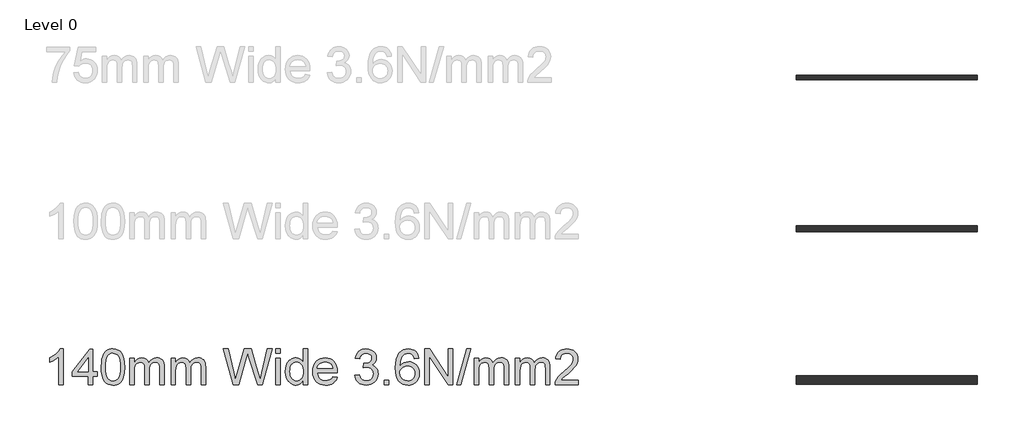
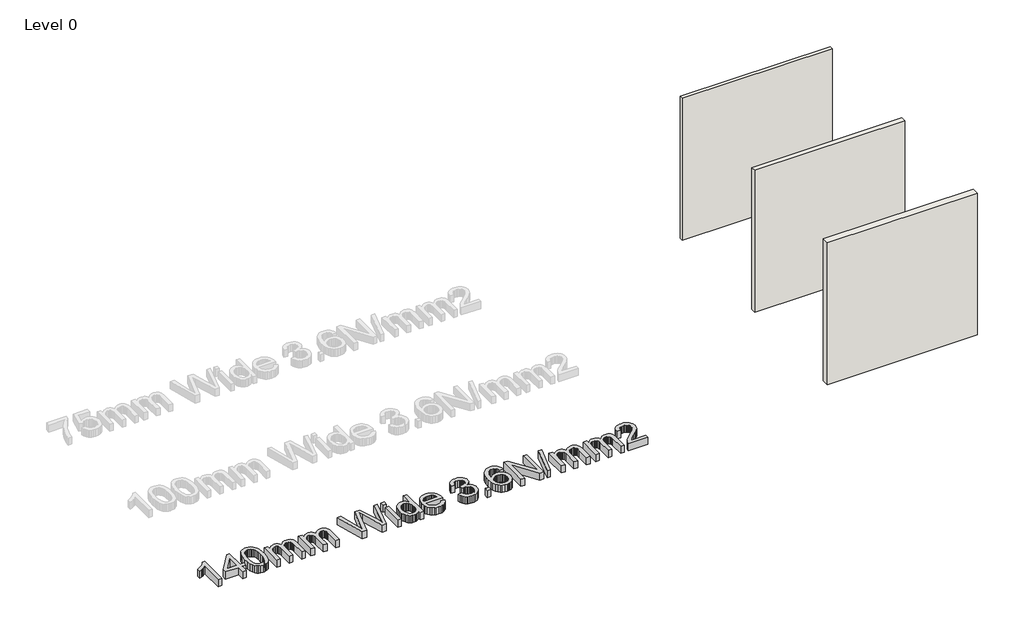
# One storey, part 1 of 4: 3 walls, 1 proxy.
"""IFC4 building model written with IfcOpenShell, lengths in millimetres."""

from ifc_helpers import new_model, si_unit, origin, origin_with_axes, place, context, project, spatial, polyline, outline, extrude, element, save

model = new_model("IFC4")

# Units and contexts
model_context = context("Model", 3, world=origin())
ifc_project = project(units=[si_unit("LENGTHUNIT", "METRE", prefix="MILLI")], contexts=[model_context])

# Site, building, storey
site = spatial("IfcSite", under=ifc_project)
building = spatial("IfcBuilding", under=site)
storey = spatial("IfcBuildingStorey", under=building, Name="Level 0", Elevation=0.0)

# Proxy
placement = place(None, origin())
element("IfcBuildingElementProxy", 1, Name="600mm Arial", ObjectType="600mm Arial", at=placement, inside=storey, context=model_context, shape_type="SweptSolid", body=[
    extrude(outline(polyline([(-37097.3715111, 14410.5578406), (-37171.2176649, 14410.5578406), (-37171.2176649, 14870.942456), (-37202.0469919, 14846.0085618), (-37241.169588, 14821.1107253), (-37282.2392995, 14799.349908), (-37318.9099726, 14783.8270714), (-37318.9099726, 14853.6347637), (-37260.9111745, 14885.1852445), (-37210.6647803, 14922.7213022), (-37171.0554053, 14962.6371676), (-37144.9676649, 15001.3270714), (-37097.3715111, 15001.3270714), (-37097.3715111, 14410.5578406)])), origin_with_axes(), (0.0, 0.0, 1.0), 150.0),
    extrude(outline(polyline([(-36681.9868957, 14410.5578406), (-36681.9868957, 14549.0193791), (-36949.6792034, 14549.0193791), (-36949.6792034, 14622.865533), (-36663.5253572, 14992.0963022), (-36608.1407419, 14992.0963022), (-36608.1407419, 14622.865533), (-36534.294588, 14622.865533), (-36534.294588, 14549.0193791), (-36608.1407419, 14549.0193791), (-36608.1407419, 14410.5578406), (-36681.9868957, 14410.5578406)]), holes=[polyline([(-36681.9868957, 14622.865533), (-36681.9868957, 14851.0386099), (-36858.8138188, 14622.865533), (-36681.9868957, 14622.865533)])]), origin_with_axes(), (0.0, 0.0, 1.0), 150.0),
    extrude(outline(polyline([(-36469.6792034, 14701.1828406), (-36464.2525207, 14795.7441387), (-36457.4691673, 14835.8447998), (-36447.9724726, 14871.1588022), (-36435.8030015, 14901.9746075), (-36421.0013188, 14928.5806772), (-36403.5674245, 14950.9770113), (-36383.5013188, 14969.1636099), (-36360.7353933, 14983.2351243), (-36335.2020399, 14993.286206), (-36306.9012587, 14999.3168551), (-36275.8330495, 15001.3270714), (-36230.3282419, 14996.567456), (-36189.5830495, 14982.2886099), (-36155.5085303, 14959.0494272), (-36130.0157419, 14927.4088022), (-36110.7609342, 14887.6371676), (-36095.4003572, 14840.004956), (-36085.3402611, 14779.5181772), (-36081.9868957, 14701.1828406), (-36087.3594919, 14607.162408), (-36094.075237, 14567.1969632), (-36103.4772803, 14531.928033), (-36115.5521, 14501.098706), (-36130.2861745, 14474.4520714), (-36147.6795039, 14451.9881291), (-36167.732088, 14433.7068791), (-36190.5250568, 14419.5407132), (-36216.1395399, 14409.4220233), (-36244.5755375, 14403.3508094), (-36275.8330495, 14401.3270714), (-36316.5061265, 14404.8426964), (-36352.5638188, 14415.3895714), (-36384.0061265, 14432.9676964), (-36410.8330495, 14457.5770714), (-36436.5782419, 14502.0632493), (-36454.9676649, 14557.4929368), (-36466.0013188, 14623.8661339), (-36469.6792034, 14701.1828406)]), holes=[polyline([(-36395.8330495, 14701.3270714), (-36393.669588, 14637.1308575), (-36387.1792034, 14585.1672156), (-36376.3618957, 14545.4361459), (-36361.2176649, 14517.9376483), (-36342.9003572, 14499.2282132), (-36322.5638188, 14485.864331), (-36300.2080495, 14477.8460017), (-36275.8330495, 14475.1732253), (-36251.4580495, 14477.8550161), (-36229.1022803, 14485.9003887), (-36208.7657419, 14499.309343), (-36190.4484342, 14518.0818791), (-36175.3042034, 14545.6254488), (-36164.4868957, 14585.3475041), (-36157.9965111, 14637.248045), (-36155.8330495, 14701.3270714), (-36157.9243957, 14763.8240666), (-36164.1984342, 14814.8727445), (-36174.6551649, 14854.4731051), (-36189.294588, 14882.6251483), (-36207.3054053, 14902.2495474), (-36227.8763188, 14916.2669753), (-36251.0073284, 14924.677432), (-36276.6984342, 14927.4809176), (-36300.9472322, 14925.0109656), (-36322.9243957, 14917.6011099), (-36342.6299245, 14905.2513503), (-36360.0638188, 14887.9616868), (-36375.7128572, 14857.3126483), (-36386.8907419, 14815.990533), (-36393.5974726, 14763.9953406), (-36395.8330495, 14701.3270714)])]), origin_with_axes(), (0.0, 0.0, 1.0), 150.0),
    extrude(outline(polyline([(-35998.9099726, 14410.5578406), (-35998.9099726, 14844.4039945), (-35925.0638188, 14844.4039945), (-35925.0638188, 14773.0097637), (-35902.8522803, 14805.8042349), (-35874.294588, 14831.4953406), (-35840.3642995, 14848.099908), (-35802.0349726, 14853.6347637), (-35760.9652611, 14847.9917349), (-35743.4862947, 14840.9379488), (-35728.044588, 14831.0626483), (-35703.4532419, 14803.9652926), (-35687.3715111, 14767.817456), (-35660.4544438, 14805.3625281), (-35629.7513188, 14832.1804368), (-35595.2621361, 14848.271182), (-35556.9868957, 14853.6347637), (-35527.4240952, 14851.403694), (-35501.4760784, 14844.7104849), (-35479.1428452, 14833.5551363), (-35460.4243957, 14817.9376483), (-35445.6272202, 14797.6777325), (-35435.0578092, 14772.5951003), (-35428.7161625, 14742.6897517), (-35426.6022803, 14707.9616868), (-35426.6022803, 14410.5578406), (-35500.4484342, 14410.5578406), (-35500.4484342, 14676.2309176), (-35502.1611745, 14713.0638503), (-35507.2993957, 14737.8895714), (-35516.9267995, 14754.8907733), (-35532.107088, 14768.2501483), (-35551.6323284, 14776.9039945), (-35574.294588, 14779.7886099), (-35595.2215712, 14777.9406531), (-35614.3005976, 14772.396783), (-35631.5316673, 14763.1569993), (-35646.9147803, 14750.2213022), (-35659.5665231, 14733.2110858), (-35668.6034822, 14711.7477445), (-35674.0256577, 14685.8312781), (-35675.8330495, 14655.4616868), (-35675.8330495, 14410.5578406), (-35749.6792034, 14410.5578406), (-35749.6792034, 14684.4520714), (-35753.9520399, 14726.2068791), (-35766.7705495, 14755.990533), (-35776.6819077, 14766.4021916), (-35789.3246361, 14773.8390906), (-35804.6987346, 14778.3012301), (-35822.8042034, 14779.7886099), (-35851.2537226, 14775.8222637), (-35877.4676649, 14763.9232253), (-35899.1022803, 14744.379956), (-35913.8138188, 14717.4809176), (-35922.2513188, 14680.161206), (-35925.0638188, 14629.3559176), (-35925.0638188, 14410.5578406), (-35998.9099726, 14410.5578406)])), origin_with_axes(), (0.0, 0.0, 1.0), 150.0),
    extrude(outline(polyline([(-35315.8330495, 14410.5578406), (-35315.8330495, 14844.4039945), (-35241.9868957, 14844.4039945), (-35241.9868957, 14773.0097637), (-35219.7753572, 14805.8042349), (-35191.2176649, 14831.4953406), (-35157.2873765, 14848.099908), (-35118.9580495, 14853.6347637), (-35077.888338, 14847.9917349), (-35060.4093717, 14840.9379488), (-35044.9676649, 14831.0626483), (-35020.3763188, 14803.9652926), (-35004.294588, 14767.817456), (-34977.3775207, 14805.3625281), (-34946.6743957, 14832.1804368), (-34912.185213, 14848.271182), (-34873.9099726, 14853.6347637), (-34844.3471721, 14851.403694), (-34818.3991553, 14844.7104849), (-34796.0659221, 14833.5551363), (-34777.3474726, 14817.9376483), (-34762.5502971, 14797.6777325), (-34751.9808861, 14772.5951003), (-34745.6392395, 14742.6897517), (-34743.5253572, 14707.9616868), (-34743.5253572, 14410.5578406), (-34817.3715111, 14410.5578406), (-34817.3715111, 14676.2309176), (-34819.0842515, 14713.0638503), (-34824.2224726, 14737.8895714), (-34833.8498765, 14754.8907733), (-34849.0301649, 14768.2501483), (-34868.5554053, 14776.9039945), (-34891.2176649, 14779.7886099), (-34912.1446481, 14777.9406531), (-34931.2236745, 14772.396783), (-34948.4547443, 14763.1569993), (-34963.8378572, 14750.2213022), (-34976.4896, 14733.2110858), (-34985.5265592, 14711.7477445), (-34990.9487346, 14685.8312781), (-34992.7561265, 14655.4616868), (-34992.7561265, 14410.5578406), (-35066.6022803, 14410.5578406), (-35066.6022803, 14684.4520714), (-35070.8751169, 14726.2068791), (-35083.6936265, 14755.990533), (-35093.6049846, 14766.4021916), (-35106.247713, 14773.8390906), (-35121.6218116, 14778.3012301), (-35139.7272803, 14779.7886099), (-35168.1767995, 14775.8222637), (-35194.3907419, 14763.9232253), (-35216.0253572, 14744.379956), (-35230.7368957, 14717.4809176), (-35239.1743957, 14680.161206), (-35241.9868957, 14629.3559176), (-35241.9868957, 14410.5578406), (-35315.8330495, 14410.5578406)])), origin_with_axes(), (0.0, 0.0, 1.0), 150.0),
    extrude(outline(polyline([(-34287.0349726, 14410.5578406), (-34448.1407419, 15001.3270714), (-34371.9868957, 15001.3270714), (-34278.5253572, 14613.0578406), (-34249.6792034, 14493.2020714), (-34218.8138188, 14599.2116868), (-34101.6984342, 15001.3270714), (-33991.9388188, 15001.3270714), (-33906.8426649, 14709.8366868), (-33870.388338, 14601.6636099), (-33843.5253572, 14493.2020714), (-33815.544588, 14609.5963022), (-33721.2176649, 15001.3270714), (-33645.0638188, 15001.3270714), (-33806.3138188, 14410.5578406), (-33885.2080495, 14410.5578406), (-34026.8426649, 14866.3270714), (-34046.6022803, 14929.9328406), (-34068.8138188, 14853.3463022), (-34197.9003572, 14410.5578406), (-34287.0349726, 14410.5578406)])), origin_with_axes(), (0.0, 0.0, 1.0), 150.0),
    extrude(outline(polyline([(-33580.4484342, 14410.5578406), (-33580.4484342, 14844.4039945), (-33506.6022803, 14844.4039945), (-33506.6022803, 14410.5578406), (-33580.4484342, 14410.5578406)])), origin_with_axes(), (0.0, 0.0, 1.0), 150.0),
    extrude(outline(polyline([(-33580.4484342, 14927.4809176), (-33580.4484342, 15001.3270714), (-33506.6022803, 15001.3270714), (-33506.6022803, 14927.4809176), (-33580.4484342, 14927.4809176)])), origin_with_axes(), (0.0, 0.0, 1.0), 150.0),
    extrude(outline(polyline([(-33128.1407419, 14410.5578406), (-33128.1407419, 14480.2213022), (-33150.2350928, 14445.7050762), (-33176.9989149, 14421.0506291), (-33208.4322082, 14406.2579608), (-33244.5349726, 14401.3270714), (-33268.9099726, 14403.1119272), (-33292.2753572, 14408.4664945), (-33314.6311265, 14417.3907733), (-33335.9772803, 14429.8847637), (-33355.6467515, 14445.5743671), (-33372.9724726, 14464.0854849), (-33387.9544438, 14485.4181171), (-33400.5926649, 14509.5722637), (-33410.6257178, 14536.0881892), (-33417.7921842, 14564.506158), (-33423.5253572, 14627.0482253), (-33418.2429053, 14688.8150522), (-33402.3955495, 14744.5963022), (-33390.5145399, 14769.4490666), (-33376.0013188, 14791.2188983), (-33358.8558861, 14809.9057974), (-33339.0782419, 14825.5097637), (-33317.3670039, 14837.8144512), (-33294.4207899, 14846.6035137), (-33270.2396, 14851.8769512), (-33244.8234342, 14853.6347637), (-33208.6936265, 14848.6047156), (-33176.7465111, 14833.5145714), (-33149.6671842, 14810.3835618), (-33128.1407419, 14781.2309176), (-33128.1407419, 15001.3270714), (-33054.294588, 15001.3270714), (-33054.294588, 14410.5578406), (-33128.1407419, 14410.5578406)]), holes=[polyline([(-33349.6792034, 14627.3366868), (-33347.5968717, 14591.5268911), (-33341.3498765, 14560.5398118), (-33330.9382178, 14534.3754488), (-33316.3618957, 14513.0338022), (-33298.9550447, 14496.4697998), (-33280.0517995, 14484.6383695), (-33259.6521601, 14477.5395113), (-33237.7561265, 14475.1732253), (-33215.756427, 14477.4313382), (-33195.4784822, 14484.2056772), (-33176.9222923, 14495.4962421), (-33160.0878572, 14511.303033), (-33146.1109943, 14531.7522517), (-33136.1275207, 14556.9701003), (-33130.1374366, 14586.9565786), (-33128.1407419, 14621.7116868), (-33130.1734943, 14659.8156531), (-33136.2717515, 14692.4929368), (-33146.4355135, 14719.7435378), (-33160.6647803, 14741.567456), (-33177.8688068, 14758.2892108), (-33196.9568476, 14770.2333214), (-33217.9289029, 14777.3997878), (-33240.7849726, 14779.7886099), (-33263.1136986, 14777.4944392), (-33283.513338, 14770.6119272), (-33301.9838909, 14759.1410738), (-33318.5253572, 14743.0818791), (-33332.1551649, 14722.0827805), (-33341.8907419, 14695.7922156), (-33347.732088, 14664.2101844), (-33349.6792034, 14627.3366868)])]), origin_with_axes(), (0.0, 0.0, 1.0), 150.0),
    extrude(outline(polyline([(-32639.7753572, 14539.7886099), (-32567.3715111, 14530.5578406), (-32578.4727731, 14501.5584416), (-32593.4592515, 14476.0025522), (-32612.3309462, 14453.8901724), (-32635.0878572, 14435.2213022), (-32661.4956096, 14420.3925762), (-32691.3198284, 14409.8006291), (-32724.5605135, 14403.4454608), (-32761.2176649, 14401.3270714), (-32807.0379774, 14404.98242), (-32847.8642995, 14415.9484656), (-32883.6966313, 14434.2252084), (-32914.5349726, 14459.8126483), (-32939.3336505, 14491.9986459), (-32957.0469919, 14530.0710618), (-32967.6749967, 14574.0298959), (-32971.2176649, 14623.8751483), (-32967.638939, 14675.4106051), (-32956.9027611, 14720.834283), (-32939.0091313, 14760.146182), (-32913.9580495, 14793.3463022), (-32883.200838, 14819.7225041), (-32848.1888188, 14838.5626483), (-32808.9219919, 14849.8667349), (-32765.4003572, 14853.6347637), (-32723.2804654, 14849.8757493), (-32685.1900207, 14838.598706), (-32651.1290231, 14819.8036339), (-32621.0974726, 14793.490533), (-32596.5827491, 14760.3625281), (-32579.0722322, 14721.1227445), (-32568.5659221, 14675.771182), (-32565.0638188, 14624.3078406), (-32565.4965111, 14604.4039945), (-32897.3715111, 14604.4039945), (-32893.0941673, 14574.9358455), (-32884.5890592, 14549.1275522), (-32871.8561866, 14526.9791147), (-32854.8955495, 14508.490533), (-32834.6446481, 14493.9142108), (-32812.0409822, 14483.5025522), (-32787.084552, 14477.255557), (-32759.7753572, 14475.1732253), (-32720.4724726, 14479.0313983), (-32687.3715111, 14490.6059176), (-32660.4724726, 14510.6179368), (-32639.7753572, 14539.7886099)]), holes=[polyline([(-32897.3715111, 14678.2501483), (-32638.9099726, 14678.2501483), (-32648.8979534, 14717.2645714), (-32657.4886986, 14732.6071195), (-32668.4772803, 14745.1732253), (-32688.6155015, 14760.317456), (-32711.5301649, 14771.1347637), (-32737.2212707, 14777.6251483), (-32765.6888188, 14779.7886099), (-32791.6548645, 14778.0623479), (-32815.466463, 14772.8835618), (-32837.1236145, 14764.2522517), (-32856.6263188, 14752.1684176), (-32872.9920039, 14737.1909536), (-32885.2380976, 14719.8787541), (-32893.3646, 14700.231819), (-32897.3715111, 14678.2501483)])]), origin_with_axes(), (0.0, 0.0, 1.0), 150.0),
    extrude(outline(polyline([(-32278.9099726, 14567.4809176), (-32205.0638188, 14576.7116868), (-32188.5313669, 14530.3054368), (-32177.3850327, 14512.7543551), (-32164.3186265, 14498.9713022), (-32149.0346721, 14488.5596435), (-32131.2356938, 14481.1227445), (-32110.9216914, 14476.6606051), (-32088.0926649, 14475.1732253), (-32061.3378572, 14477.2194993), (-32037.4676649, 14483.3583214), (-32016.482088, 14493.5896916), (-31998.3811265, 14507.9136099), (-31983.8048044, 14525.2573599), (-31973.3931457, 14544.5482253), (-31967.1461505, 14565.786206), (-31965.0638188, 14588.9713022), (-31967.1281217, 14611.0521315), (-31973.3210303, 14631.1407733), (-31983.6425447, 14649.2372277), (-31998.0926649, 14665.3414945), (-32015.7248765, 14678.5611459), (-32035.5926649, 14688.0037541), (-32057.6960303, 14693.669319), (-32082.0349726, 14695.5578406), (-32105.3642995, 14693.5386099), (-32133.8138188, 14687.4809176), (-32125.5926649, 14761.3270714), (-32113.7657419, 14760.4616868), (-32069.5229534, 14765.7621676), (-32029.9676649, 14781.6636099), (-32013.6876169, 14793.6888503), (-32002.0590111, 14808.5626483), (-31995.0818476, 14826.2850041), (-31992.7561265, 14846.8559176), (-31994.4418236, 14863.5551363), (-31999.4989149, 14878.7489464), (-32007.9274005, 14892.4373479), (-32019.7272803, 14904.6203406), (-32034.1864149, 14914.621843), (-32050.5926649, 14921.7657733), (-32089.2465111, 14927.4809176), (-32127.9724726, 14921.7116868), (-32144.685213, 14914.5001483), (-32159.6311265, 14904.4039945), (-32172.4406217, 14891.4232253), (-32182.7441072, 14875.5578406), (-32190.5415832, 14856.8078406), (-32195.8330495, 14835.1732253), (-32269.6792034, 14844.4039945), (-32260.9261986, 14879.6594031), (-32247.9364149, 14910.7140906), (-32230.7098524, 14937.568057), (-32209.2465111, 14960.2213022), (-32184.2224726, 14978.2050762), (-32156.3138188, 14991.0506291), (-32125.5205495, 14998.7579608), (-32091.8426649, 15001.3270714), (-32045.4183861, 14996.2609656), (-32002.7801649, 14981.0626483), (-31966.8306457, 14957.084283), (-31940.4724726, 14925.678033), (-31924.3005976, 14889.4941387), (-31918.9099726, 14851.1828406), (-31924.0301649, 14815.4857253), (-31939.3907419, 14783.1059176), (-31964.7753572, 14755.521783), (-31999.9676649, 14734.2116868), (-31975.3582899, 14726.5133695), (-31953.7417034, 14715.5338022), (-31935.1179053, 14701.2729849), (-31919.4868957, 14683.7309176), (-31907.1191072, 14663.3402926), (-31898.2849726, 14640.5338022), (-31892.9844919, 14615.3114464), (-31891.2176649, 14587.6732253), (-31894.7513188, 14550.209283), (-31905.3522803, 14515.7020714), (-31923.0205495, 14484.1515906), (-31947.7561265, 14455.5578406), (-31977.8913428, 14431.8318791), (-32011.7585303, 14414.8847637), (-32049.357689, 14404.7164945), (-32090.6888188, 14401.3270714), (-32128.044588, 14404.2207012), (-32162.0830495, 14412.9015906), (-32192.8042034, 14427.3697397), (-32220.2080495, 14447.6251483), (-32243.185814, 14472.4779128), (-32260.6287226, 14500.7381291), (-32272.5367755, 14532.4057974), (-32278.9099726, 14567.4809176)])), origin_with_axes(), (0.0, 0.0, 1.0), 150.0),
    extrude(outline(polyline([(-31789.6792034, 14410.5578406), (-31789.6792034, 14484.4039945), (-31715.8330495, 14484.4039945), (-31715.8330495, 14410.5578406), (-31789.6792034, 14410.5578406)])), origin_with_axes(), (0.0, 0.0, 1.0), 150.0),
    extrude(outline(polyline([(-31217.3715111, 14844.4039945), (-31291.2176649, 14835.1732253), (-31303.1167034, 14871.771783), (-31319.1984342, 14896.7597637), (-31335.0728332, 14910.2002685), (-31352.6960303, 14919.8006291), (-31372.0680255, 14925.5608455), (-31393.1888188, 14927.4809176), (-31427.5157419, 14923.0097637), (-31459.8234342, 14909.5963022), (-31487.5698284, 14881.3451003), (-31510.232088, 14842.4568791), (-31519.0887587, 14817.653694), (-31525.5385784, 14787.4508695), (-31531.2176649, 14710.8463022), (-31501.5962707, 14745.4076003), (-31466.0974726, 14769.7645714), (-31426.7044438, 14784.2056772), (-31385.4003572, 14789.0193791), (-31349.919588, 14785.7291147), (-31317.1792034, 14775.8583214), (-31287.1792034, 14759.4069993), (-31259.919588, 14736.3751483), (-31237.2663428, 14708.1329608), (-31221.0854534, 14676.0506291), (-31211.3769197, 14640.1281531), (-31208.1407419, 14600.365533), (-31214.2344919, 14547.4869272), (-31221.8516794, 14522.4944392), (-31232.5157419, 14498.4664945), (-31245.8480736, 14476.3000281), (-31261.4700688, 14456.8919753), (-31279.3817274, 14440.2423358), (-31299.5830495, 14426.3511099), (-31321.6413428, 14415.403093), (-31345.1239149, 14407.583081), (-31370.0307659, 14402.8910738), (-31396.3618957, 14401.3270714), (-31440.3838308, 14405.473706), (-31480.1419438, 14417.9136099), (-31515.6362346, 14438.646783), (-31546.8667034, 14467.6732253), (-31572.3279414, 14506.2188983), (-31590.5145399, 14555.5097637), (-31601.4264991, 14615.5458214), (-31605.0638188, 14686.3270714), (-31601.0253572, 14765.6810378), (-31588.9099726, 14833.4063983), (-31568.7176649, 14889.5031531), (-31555.5926649, 14913.1908034), (-31540.4484342, 14933.9713022), (-31509.8084101, 14963.4394512), (-31474.2825688, 14984.4881291), (-31433.8709101, 14997.1173358), (-31388.5734342, 15001.3270714), (-31354.5620159, 14998.7219031), (-31323.7777611, 14990.9063983), (-31296.2206697, 14977.880557), (-31271.8907419, 14959.6443791), (-31251.4460303, 14936.8108455), (-31235.544588, 14909.9929368), (-31224.1864149, 14879.1906531), (-31217.3715111, 14844.4039945)]), holes=[polyline([(-31531.2176649, 14601.5193791), (-31526.9448284, 14568.7970233), (-31514.1263188, 14537.553033), (-31494.2224726, 14510.6900522), (-31468.6936265, 14491.1107253), (-31437.8823284, 14479.1576003), (-31402.1311265, 14475.1732253), (-31376.4625568, 14477.2375281), (-31353.3991553, 14483.4304368), (-31332.9409221, 14493.7519512), (-31315.0878572, 14508.2020714), (-31300.6061866, 14526.1948599), (-31290.2621361, 14547.1443791), (-31284.0557058, 14571.0506291), (-31281.9868957, 14597.9136099), (-31284.0286625, 14623.7264104), (-31290.153963, 14646.645581), (-31300.3627971, 14666.6711219), (-31314.6551649, 14683.803033), (-31332.5623164, 14697.5274921), (-31353.6155015, 14707.3306772), (-31377.8147202, 14713.2125882), (-31405.1599726, 14715.1732253), (-31430.4859943, 14713.2125882), (-31453.8198284, 14707.3306772), (-31475.161475, 14697.5274921), (-31494.5109342, 14683.803033), (-31510.5701289, 14666.8964825), (-31522.0409822, 14647.5470233), (-31528.9234943, 14625.7546555), (-31531.2176649, 14601.5193791)])]), origin_with_axes(), (0.0, 0.0, 1.0), 150.0),
    extrude(outline(polyline([(-31115.8330495, 14410.5578406), (-31115.8330495, 15001.3270714), (-31036.794588, 15001.3270714), (-30728.1407419, 14533.2982253), (-30728.1407419, 15001.3270714), (-30654.294588, 15001.3270714), (-30654.294588, 14410.5578406), (-30733.3330495, 14410.5578406), (-31041.9868957, 14878.7309176), (-31041.9868957, 14410.5578406), (-31115.8330495, 14410.5578406)])), origin_with_axes(), (0.0, 0.0, 1.0), 150.0),
    extrude(outline(polyline([(-30589.6792034, 14410.5578406), (-30423.5253572, 15001.3270714), (-30356.8907419, 15001.3270714), (-30523.044588, 14410.5578406), (-30589.6792034, 14410.5578406)])), origin_with_axes(), (0.0, 0.0, 1.0), 150.0),
    extrude(outline(polyline([(-30303.5253572, 14410.5578406), (-30303.5253572, 14844.4039945), (-30229.6792034, 14844.4039945), (-30229.6792034, 14773.0097637), (-30207.4676649, 14805.8042349), (-30178.9099726, 14831.4953406), (-30144.9796842, 14848.099908), (-30106.6503572, 14853.6347637), (-30065.5806457, 14847.9917349), (-30048.1016794, 14840.9379488), (-30032.6599726, 14831.0626483), (-30008.0686265, 14803.9652926), (-29991.9868957, 14767.817456), (-29965.0698284, 14805.3625281), (-29934.3667034, 14832.1804368), (-29899.8775207, 14848.271182), (-29861.6022803, 14853.6347637), (-29832.0394798, 14851.403694), (-29806.091463, 14844.7104849), (-29783.7582298, 14833.5551363), (-29765.0397803, 14817.9376483), (-29750.2426048, 14797.6777325), (-29739.6731938, 14772.5951003), (-29733.3315471, 14742.6897517), (-29731.2176649, 14707.9616868), (-29731.2176649, 14410.5578406), (-29805.0638188, 14410.5578406), (-29805.0638188, 14676.2309176), (-29806.7765592, 14713.0638503), (-29811.9147803, 14737.8895714), (-29821.5421842, 14754.8907733), (-29836.7224726, 14768.2501483), (-29856.247713, 14776.9039945), (-29878.9099726, 14779.7886099), (-29899.8369558, 14777.9406531), (-29918.9159822, 14772.396783), (-29936.147052, 14763.1569993), (-29951.5301649, 14750.2213022), (-29964.1819077, 14733.2110858), (-29973.2188669, 14711.7477445), (-29978.6410423, 14685.8312781), (-29980.4484342, 14655.4616868), (-29980.4484342, 14410.5578406), (-30054.294588, 14410.5578406), (-30054.294588, 14684.4520714), (-30058.5674245, 14726.2068791), (-30071.3859342, 14755.990533), (-30081.2972923, 14766.4021916), (-30093.9400207, 14773.8390906), (-30109.3141193, 14778.3012301), (-30127.419588, 14779.7886099), (-30155.8691072, 14775.8222637), (-30182.0830495, 14763.9232253), (-30203.7176649, 14744.379956), (-30218.4292034, 14717.4809176), (-30226.8667034, 14680.161206), (-30229.6792034, 14629.3559176), (-30229.6792034, 14410.5578406), (-30303.5253572, 14410.5578406)])), origin_with_axes(), (0.0, 0.0, 1.0), 150.0),
    extrude(outline(polyline([(-29620.4484342, 14410.5578406), (-29620.4484342, 14844.4039945), (-29546.6022803, 14844.4039945), (-29546.6022803, 14773.0097637), (-29524.3907419, 14805.8042349), (-29495.8330495, 14831.4953406), (-29461.9027611, 14848.099908), (-29423.5734342, 14853.6347637), (-29382.5037226, 14847.9917349), (-29365.0247563, 14840.9379488), (-29349.5830495, 14831.0626483), (-29324.9917034, 14803.9652926), (-29308.9099726, 14767.817456), (-29281.9929053, 14805.3625281), (-29251.2897803, 14832.1804368), (-29216.8005976, 14848.271182), (-29178.5253572, 14853.6347637), (-29148.9625568, 14851.403694), (-29123.0145399, 14844.7104849), (-29100.6813068, 14833.5551363), (-29081.9628572, 14817.9376483), (-29067.1656818, 14797.6777325), (-29056.5962707, 14772.5951003), (-29050.2546241, 14742.6897517), (-29048.1407419, 14707.9616868), (-29048.1407419, 14410.5578406), (-29121.9868957, 14410.5578406), (-29121.9868957, 14676.2309176), (-29123.6996361, 14713.0638503), (-29128.8378572, 14737.8895714), (-29138.4652611, 14754.8907733), (-29153.6455495, 14768.2501483), (-29173.1707899, 14776.9039945), (-29195.8330495, 14779.7886099), (-29216.7600327, 14777.9406531), (-29235.8390592, 14772.396783), (-29253.0701289, 14763.1569993), (-29268.4532419, 14750.2213022), (-29281.1049846, 14733.2110858), (-29290.1419438, 14711.7477445), (-29295.5641193, 14685.8312781), (-29297.3715111, 14655.4616868), (-29297.3715111, 14410.5578406), (-29371.2176649, 14410.5578406), (-29371.2176649, 14684.4520714), (-29375.4905015, 14726.2068791), (-29388.3090111, 14755.990533), (-29398.2203693, 14766.4021916), (-29410.8630976, 14773.8390906), (-29426.2371962, 14778.3012301), (-29444.3426649, 14779.7886099), (-29472.7921842, 14775.8222637), (-29499.0061265, 14763.9232253), (-29520.6407419, 14744.379956), (-29535.3522803, 14717.4809176), (-29543.7897803, 14680.161206), (-29546.6022803, 14629.3559176), (-29546.6022803, 14410.5578406), (-29620.4484342, 14410.5578406)])), origin_with_axes(), (0.0, 0.0, 1.0), 150.0),
    extrude(outline(polyline([(-28577.3715111, 14484.4039945), (-28577.3715111, 14410.5578406), (-28965.0638188, 14410.5578406), (-28963.4412226, 14436.5554368), (-28957.1311265, 14461.4713022), (-28938.9219919, 14501.2609656), (-28912.2753572, 14539.8607253), (-28873.7296842, 14580.2633695), (-28819.8234342, 14625.4616868), (-28740.1359342, 14696.2429368), (-28692.3234342, 14748.490533), (-28678.3781217, 14769.8366868), (-28668.4171842, 14790.8943791), (-28662.4406217, 14811.6636099), (-28660.4484342, 14832.1443791), (-28662.3279414, 14851.4127084), (-28667.966463, 14869.1215426), (-28677.3639991, 14885.2708815), (-28690.5205495, 14899.8607253), (-28706.7059462, 14911.9445594), (-28725.1900207, 14920.5758695), (-28745.9727731, 14925.7546555), (-28769.0542034, 14927.4809176), (-28793.3706096, 14925.7952205), (-28815.1179053, 14920.7381291), (-28834.2960904, 14912.3096435), (-28850.9051649, 14900.5097637), (-28864.3411625, 14885.7351243), (-28874.0001169, 14868.3823599), (-28879.8820279, 14848.4514705), (-28881.9868957, 14825.942456), (-28955.8330495, 14835.1732253), (-28949.4823885, 14873.2952205), (-28937.9304053, 14906.6035137), (-28921.1771, 14935.0981051), (-28899.2224726, 14958.7789945), (-28872.5713308, 14977.3937781), (-28841.7284822, 14990.6900522), (-28806.693927, 14998.6678166), (-28767.4676649, 15001.3270714), (-28727.8898404, 14998.3703406), (-28692.6659822, 14989.5001483), (-28661.7960904, 14974.7164945), (-28635.2801649, 14954.0193791), (-28613.9835904, 14928.9412541), (-28598.7717515, 14901.0145714), (-28589.6446481, 14870.239331), (-28586.6022803, 14836.615533), (-28589.8835303, 14801.2970233), (-28599.7272803, 14766.5914945), (-28617.1972322, 14731.2910137), (-28643.357088, 14694.1876483), (-28685.0578092, 14649.8907733), (-28749.1503572, 14593.0097637), (-28834.1022803, 14521.9761099), (-28867.419588, 14484.4039945), (-28577.3715111, 14484.4039945)])), origin_with_axes(), (0.0, 0.0, 1.0), 150.0),
])

# Walls
element("IfcWall", 2, ObjectType="Optilyte_MasonryUnit_Solid-140mmWide_3.6N/mm2", at=placement, inside=storey, context=model_context, shape_type="SweptSolid", body=[
    extrude(outline(polyline([(-21978.7493607, 14419.3583124), (-24978.7493607, 14419.3583124), (-24978.7493607, 14559.3583124), (-21978.7493607, 14559.3583124), (-21978.7493607, 14419.3583124)])), origin_with_axes(), (0.0, 0.0, 1.0), 3000.0),
])
element("IfcWall", 3, ObjectType="Optilyte_MasonryUnit_Solid-100mmWide_3.6N/mm2", at=placement, inside=storey, context=model_context, shape_type="SweptSolid", body=[
    extrude(outline(polyline([(-21978.7493607, 16939.3583124), (-24978.7493607, 16939.3583124), (-24978.7493607, 17039.3583124), (-21978.7493607, 17039.3583124), (-21978.7493607, 16939.3583124)])), origin_with_axes(), (0.0, 0.0, 1.0), 3000.0),
])
element("IfcWall", 4, ObjectType="Optilyte_MasonryUnit_Solid-75mmWide_3.6N/mm2", at=placement, inside=storey, context=model_context, shape_type="SweptSolid", body=[
    extrude(outline(polyline([(-21978.7493607, 19451.8583124), (-24978.7493607, 19451.8583124), (-24978.7493607, 19526.8583124), (-21978.7493607, 19526.8583124), (-21978.7493607, 19451.8583124)])), origin_with_axes(), (0.0, 0.0, 1.0), 3000.0),
])

save(model, "model.ifc")
